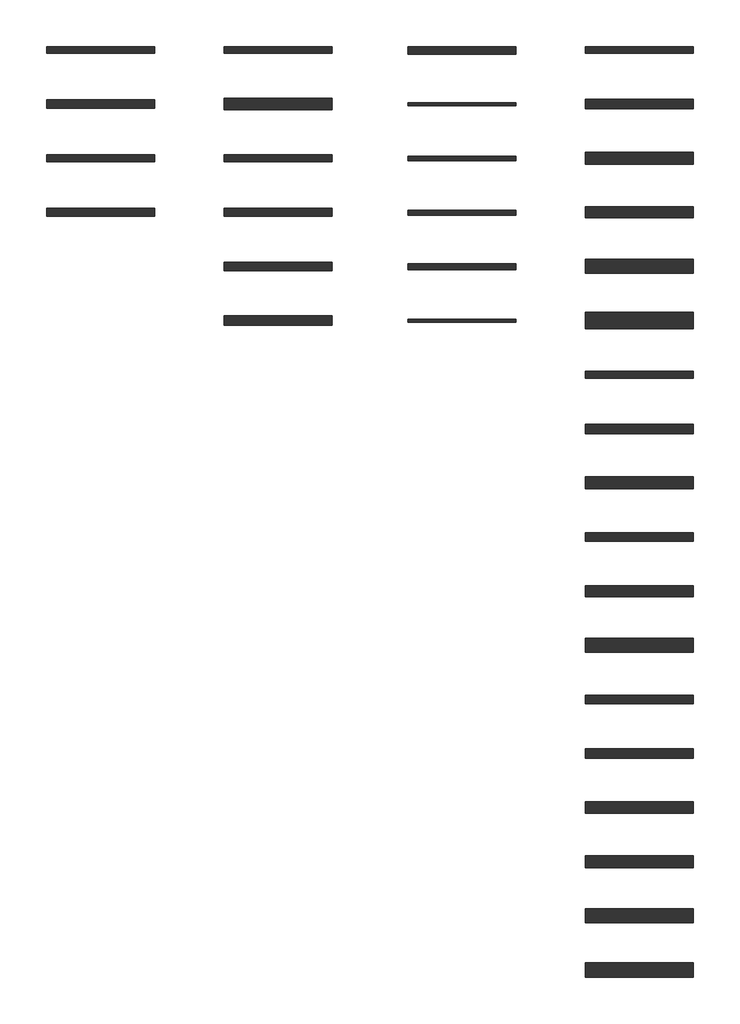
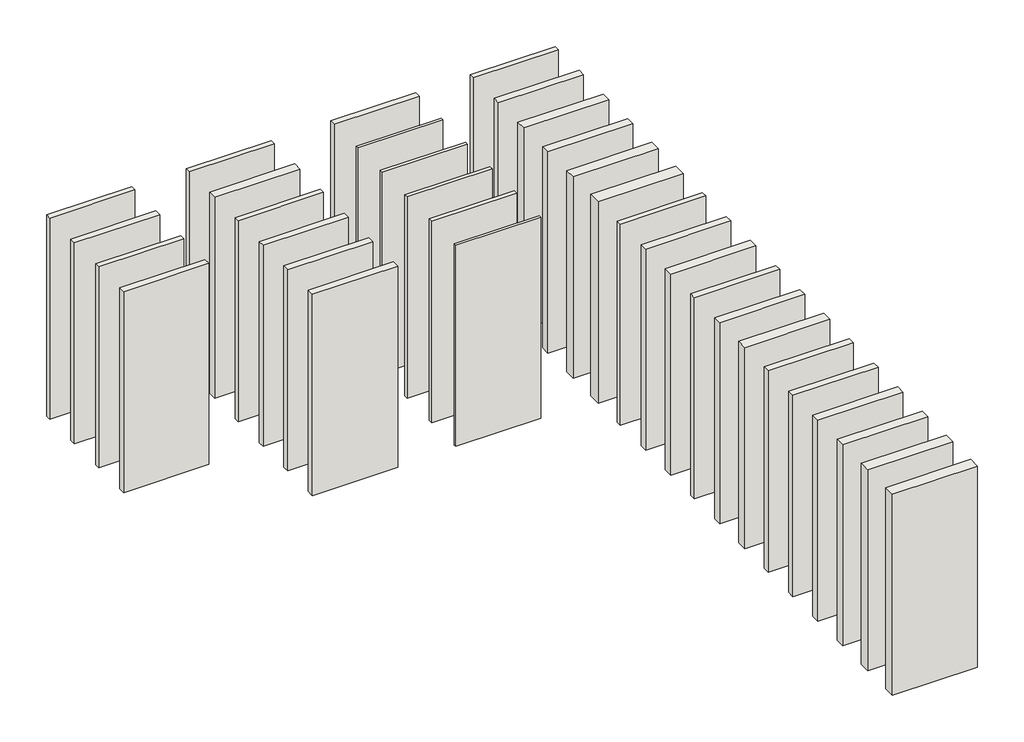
# One storey: 34 walls.
"""IFC4 building model written with IfcOpenShell, lengths in millimetres."""

from ifc_helpers import new_model, si_unit, origin, origin_with_axes, place, context, project, spatial, polyline, outline, extrude, element, save

model = new_model("IFC4")

# Units and contexts
model_context = context("Model", 3, world=origin())
ifc_project = project(units=[si_unit("LENGTHUNIT", "METRE", prefix="MILLI")], contexts=[model_context])

# Site, building, storey
site = spatial("IfcSite", under=ifc_project)
building = spatial("IfcBuilding", under=site)
storey = spatial("IfcBuildingStorey", under=building, Name="1_Apšūtas sienas", Elevation=0.0)

# Walls
placement = place(None, origin())
element("IfcWall", 1, ObjectType="RIGIPS - 3.21.10 AKU (62.5)", at=placement, inside=storey, context=model_context, shape_type="SweptSolid", body=[
    extrude(outline(polyline([(-7369.961201, 6201.4587126), (-8369.961201, 6201.4587126), (-8369.961201, 6263.9587126), (-7369.961201, 6263.9587126), (-7369.961201, 6201.4587126)])), origin_with_axes(), (0.0, 0.0, 1.0), 2500.0),
])
element("IfcWall", 2, ObjectType="RIGIPS - 3.21.10 AKU (75)", at=placement, inside=storey, context=model_context, shape_type="SweptSolid", body=[
    extrude(outline(polyline([(-7369.961201, 5695.2087126), (-8369.961201, 5695.2087126), (-8369.961201, 5770.2087126), (-7369.961201, 5770.2087126), (-7369.961201, 5695.2087126)])), origin_with_axes(), (0.0, 0.0, 1.0), 2500.0),
])
element("IfcWall", 3, ObjectType="RIGIPS - 3.21.10 AKU - EI 15, REI 15", at=placement, inside=storey, context=model_context, shape_type="SweptSolid", body=[
    extrude(outline(polyline([(-7369.961201, 5201.4587126), (-8369.961201, 5201.4587126), (-8369.961201, 5263.9587126), (-7369.961201, 5263.9587126), (-7369.961201, 5201.4587126)])), origin_with_axes(), (0.0, 0.0, 1.0), 2500.0),
])
element("IfcWall", 4, ObjectType="RIGIPS - 3.21.10 AKU - EI 30, REI 30", at=placement, inside=storey, context=model_context, shape_type="SweptSolid", body=[
    extrude(outline(polyline([(-7369.961201, 4695.2087126), (-8369.961201, 4695.2087126), (-8369.961201, 4770.2087126), (-7369.961201, 4770.2087126), (-7369.961201, 4695.2087126)])), origin_with_axes(), (0.0, 0.0, 1.0), 2500.0),
])
element("IfcWall", 5, ObjectType="RIGIPS - 3.21.10_3.21.15 - 12dB", at=placement, inside=storey, context=model_context, shape_type="SweptSolid", body=[
    extrude(outline(polyline([(-5729.961201, 6201.4587126), (-6729.961201, 6201.4587126), (-6729.961201, 6263.9587126), (-5729.961201, 6263.9587126), (-5729.961201, 6201.4587126)])), origin_with_axes(), (0.0, 0.0, 1.0), 2500.0),
])
element("IfcWall", 6, ObjectType="RIGIPS - 3.21.10_3.21.15 - EI 120, REI120 - 12dB", at=placement, inside=storey, context=model_context, shape_type="SweptSolid", body=[
    extrude(outline(polyline([(-5729.961201, 5680.2087126), (-6729.961201, 5680.2087126), (-6729.961201, 5785.2087126), (-5729.961201, 5785.2087126), (-5729.961201, 5680.2087126)])), origin_with_axes(), (0.0, 0.0, 1.0), 2500.0),
])
element("IfcWall", 7, ObjectType="RIGIPS - 3.21.10_3.21.15 - EI 15, REI 15 - 12dB", at=placement, inside=storey, context=model_context, shape_type="SweptSolid", body=[
    extrude(outline(polyline([(-5729.961201, 5201.4587126), (-6729.961201, 5201.4587126), (-6729.961201, 5263.9587126), (-5729.961201, 5263.9587126), (-5729.961201, 5201.4587126)])), origin_with_axes(), (0.0, 0.0, 1.0), 2500.0),
])
element("IfcWall", 8, ObjectType="RIGIPS - 3.21.10_3.21.15 - EI 30, REI 30 - 12dB", at=placement, inside=storey, context=model_context, shape_type="SweptSolid", body=[
    extrude(outline(polyline([(-5729.961201, 4695.2087126), (-6729.961201, 4695.2087126), (-6729.961201, 4770.2087126), (-5729.961201, 4770.2087126), (-5729.961201, 4695.2087126)])), origin_with_axes(), (0.0, 0.0, 1.0), 2500.0),
])
element("IfcWall", 9, ObjectType="RIGIPS - 3.21.10_3.21.15 - EI 60, REI 60 (80) - 12dB", at=placement, inside=storey, context=model_context, shape_type="SweptSolid", body=[
    extrude(outline(polyline([(-5729.961201, 4192.7087126), (-6729.961201, 4192.7087126), (-6729.961201, 4272.7087126), (-5729.961201, 4272.7087126), (-5729.961201, 4192.7087126)])), origin_with_axes(), (0.0, 0.0, 1.0), 2500.0),
])
element("IfcWall", 10, ObjectType="RIGIPS - 3.21.10_3.21.15 - EI 60, REI 60 (87.5) - 12dB", at=placement, inside=storey, context=model_context, shape_type="SweptSolid", body=[
    extrude(outline(polyline([(-5729.961201, 3688.9587126), (-6729.961201, 3688.9587126), (-6729.961201, 3776.4587126), (-5729.961201, 3776.4587126), (-5729.961201, 3688.9587126)])), origin_with_axes(), (0.0, 0.0, 1.0), 2500.0),
])
element("IfcWall", 11, ObjectType="RIGIPS - 3.21.30 - EI 120, REI 120", at=placement, inside=storey, context=model_context, shape_type="SweptSolid", body=[
    extrude(outline(polyline([(-4029.961201, 6193.9587126), (-5029.961201, 6193.9587126), (-5029.961201, 6263.9587126), (-4029.961201, 6263.9587126), (-4029.961201, 6193.9587126)])), origin_with_axes(), (0.0, 0.0, 1.0), 2500.0),
])
element("IfcWall", 12, ObjectType="RIGIPS - 3.21.30 - EI 15, REI 15", at=placement, inside=storey, context=model_context, shape_type="SweptSolid", body=[
    extrude(outline(polyline([(-4029.961201, 5714.9587126), (-5029.961201, 5714.9587126), (-5029.961201, 5742.9587126), (-4029.961201, 5742.9587126), (-4029.961201, 5714.9587126)])), origin_with_axes(), (0.0, 0.0, 1.0), 2500.0),
])
element("IfcWall", 13, ObjectType="RIGIPS - 3.21.30 - EI 30, REI 30", at=placement, inside=storey, context=model_context, shape_type="SweptSolid", body=[
    extrude(outline(polyline([(-4029.961201, 5208.9587126), (-5029.961201, 5208.9587126), (-5029.961201, 5248.9587126), (-4029.961201, 5248.9587126), (-4029.961201, 5208.9587126)])), origin_with_axes(), (0.0, 0.0, 1.0), 2500.0),
])
element("IfcWall", 14, ObjectType="RIGIPS - 3.21.30 - EI 60, REI 60 (46)", at=placement, inside=storey, context=model_context, shape_type="SweptSolid", body=[
    extrude(outline(polyline([(-4029.961201, 4706.4587126), (-5029.961201, 4706.4587126), (-5029.961201, 4751.4587126), (-4029.961201, 4751.4587126), (-4029.961201, 4706.4587126)])), origin_with_axes(), (0.0, 0.0, 1.0), 2500.0),
])
element("IfcWall", 15, ObjectType="RIGIPS - 3.21.30 - EI 60, REI 60 (53)", at=placement, inside=storey, context=model_context, shape_type="SweptSolid", body=[
    extrude(outline(polyline([(-4029.961201, 4202.7087126), (-5029.961201, 4202.7087126), (-5029.961201, 4255.2087126), (-4029.961201, 4255.2087126), (-4029.961201, 4202.7087126)])), origin_with_axes(), (0.0, 0.0, 1.0), 2500.0),
])
element("IfcWall", 16, ObjectType="RIGIPS - 3.21.30", at=placement, inside=storey, context=model_context, shape_type="SweptSolid", body=[
    extrude(outline(polyline([(-4029.961201, 3715.2087126), (-5029.961201, 3715.2087126), (-5029.961201, 3742.7087126), (-4029.961201, 3742.7087126), (-4029.961201, 3715.2087126)])), origin_with_axes(), (0.0, 0.0, 1.0), 2500.0),
])
element("IfcWall", 17, ObjectType="RIGIPS - 3.22.00 - 3000 - 12dB", at=placement, inside=storey, context=model_context, shape_type="SweptSolid", body=[
    extrude(outline(polyline([(-2389.961201, 6201.4587126), (-3389.961201, 6201.4587126), (-3389.961201, 6263.9587126), (-2389.961201, 6263.9587126), (-2389.961201, 6201.4587126)])), origin_with_axes(), (0.0, 0.0, 1.0), 2500.0),
])
element("IfcWall", 18, ObjectType="RIGIPS - 3.22.00 - 3500 - 12dB", at=placement, inside=storey, context=model_context, shape_type="SweptSolid", body=[
    extrude(outline(polyline([(-2389.961201, 5688.9587126), (-3389.961201, 5688.9587126), (-3389.961201, 5776.4587126), (-2389.961201, 5776.4587126), (-2389.961201, 5688.9587126)])), origin_with_axes(), (0.0, 0.0, 1.0), 2500.0),
])
element("IfcWall", 19, ObjectType="RIGIPS - 3.22.00 - 4000 - 12dB", at=placement, inside=storey, context=model_context, shape_type="SweptSolid", body=[
    extrude(outline(polyline([(-2389.961201, 5176.4587126), (-3389.961201, 5176.4587126), (-3389.961201, 5288.9587126), (-2389.961201, 5288.9587126), (-2389.961201, 5176.4587126)])), origin_with_axes(), (0.0, 0.0, 1.0), 2500.0),
])
element("IfcWall", 20, ObjectType="RIGIPS - 3.22.00 - EI 120, REI 120 - 4000 - 12dB", at=placement, inside=storey, context=model_context, shape_type="SweptSolid", body=[
    extrude(outline(polyline([(-2389.961201, 4680.2087126), (-3389.961201, 4680.2087126), (-3389.961201, 4785.2087126), (-2389.961201, 4785.2087126), (-2389.961201, 4680.2087126)])), origin_with_axes(), (0.0, 0.0, 1.0), 2500.0),
])
element("IfcWall", 21, ObjectType="RIGIPS - 3.22.00 - EI 120, REI 120 - 4500 - 12dB", at=placement, inside=storey, context=model_context, shape_type="SweptSolid", body=[
    extrude(outline(polyline([(-2389.961201, 4167.7087126), (-3389.961201, 4167.7087126), (-3389.961201, 4297.7087126), (-2389.961201, 4297.7087126), (-2389.961201, 4167.7087126)])), origin_with_axes(), (0.0, 0.0, 1.0), 2500.0),
])
element("IfcWall", 22, ObjectType="RIGIPS - 3.22.00 - EI 120, REI 120 - 5500 - 12dB", at=placement, inside=storey, context=model_context, shape_type="SweptSolid", body=[
    extrude(outline(polyline([(-2389.961201, 3655.2087126), (-3389.961201, 3655.2087126), (-3389.961201, 3810.2087126), (-2389.961201, 3810.2087126), (-2389.961201, 3655.2087126)])), origin_with_axes(), (0.0, 0.0, 1.0), 2500.0),
])
element("IfcWall", 23, ObjectType="RIGIPS - 3.22.00 - EI 15, REI 15 - 3000 - 12dB", at=placement, inside=storey, context=model_context, shape_type="SweptSolid", body=[
    extrude(outline(polyline([(-2389.961201, 3201.4587126), (-3389.961201, 3201.4587126), (-3389.961201, 3263.9587126), (-2389.961201, 3263.9587126), (-2389.961201, 3201.4587126)])), origin_with_axes(), (0.0, 0.0, 1.0), 2500.0),
])
element("IfcWall", 24, ObjectType="RIGIPS - 3.22.00 - EI 15, REI 15 - 3500 - 12dB", at=placement, inside=storey, context=model_context, shape_type="SweptSolid", body=[
    extrude(outline(polyline([(-2389.961201, 2688.9587126), (-3389.961201, 2688.9587126), (-3389.961201, 2776.4587126), (-2389.961201, 2776.4587126), (-2389.961201, 2688.9587126)])), origin_with_axes(), (0.0, 0.0, 1.0), 2500.0),
])
element("IfcWall", 25, ObjectType="RIGIPS - 3.22.00 - EI 15, REI 15 - 4000 - 12dB", at=placement, inside=storey, context=model_context, shape_type="SweptSolid", body=[
    extrude(outline(polyline([(-2389.961201, 2176.4587126), (-3389.961201, 2176.4587126), (-3389.961201, 2288.9587126), (-2389.961201, 2288.9587126), (-2389.961201, 2176.4587126)])), origin_with_axes(), (0.0, 0.0, 1.0), 2500.0),
])
element("IfcWall", 26, ObjectType="RIGIPS - 3.22.00 - EI 30, REI 30 - 3500 - 12dB", at=placement, inside=storey, context=model_context, shape_type="SweptSolid", body=[
    extrude(outline(polyline([(-2389.961201, 1695.2087126), (-3389.961201, 1695.2087126), (-3389.961201, 1770.2087126), (-2389.961201, 1770.2087126), (-2389.961201, 1695.2087126)])), origin_with_axes(), (0.0, 0.0, 1.0), 2500.0),
])
element("IfcWall", 27, ObjectType="RIGIPS - 3.22.00 - EI 30, REI 30 - 4000 - 12dB", at=placement, inside=storey, context=model_context, shape_type="SweptSolid", body=[
    extrude(outline(polyline([(-2389.961201, 1182.7087126), (-3389.961201, 1182.7087126), (-3389.961201, 1282.7087126), (-2389.961201, 1282.7087126), (-2389.961201, 1182.7087126)])), origin_with_axes(), (0.0, 0.0, 1.0), 2500.0),
])
element("IfcWall", 28, ObjectType="RIGIPS - 3.22.00 - EI 30, REI 30 - 5500 - 12dB", at=placement, inside=storey, context=model_context, shape_type="SweptSolid", body=[
    extrude(outline(polyline([(-2389.961201, 670.2087126), (-3389.961201, 670.2087126), (-3389.961201, 795.2087126), (-2389.961201, 795.2087126), (-2389.961201, 670.2087126)])), origin_with_axes(), (0.0, 0.0, 1.0), 2500.0),
])
element("IfcWall", 29, ObjectType="RIGIPS - 3.22.00 - EI 60, REI 60 - 4000 - 12dB (80)", at=placement, inside=storey, context=model_context, shape_type="SweptSolid", body=[
    extrude(outline(polyline([(-2389.961201, 192.7087126), (-3389.961201, 192.7087126), (-3389.961201, 272.7087126), (-2389.961201, 272.7087126), (-2389.961201, 192.7087126)])), origin_with_axes(), (0.0, 0.0, 1.0), 2500.0),
])
element("IfcWall", 30, ObjectType="RIGIPS - 3.22.00 - EI 60, REI 60 - 4000 - 12dB (87.5)", at=placement, inside=storey, context=model_context, shape_type="SweptSolid", body=[
    extrude(outline(polyline([(-2389.961201, -311.0412874), (-3389.961201, -311.0412874), (-3389.961201, -223.5412874), (-2389.961201, -223.5412874), (-2389.961201, -311.0412874)])), origin_with_axes(), (0.0, 0.0, 1.0), 2500.0),
])
element("IfcWall", 31, ObjectType="RIGIPS - 3.22.00 - EI 60, REI 60 - 4500 - 12dB (105)", at=placement, inside=storey, context=model_context, shape_type="SweptSolid", body=[
    extrude(outline(polyline([(-2389.961201, -819.7912874), (-3389.961201, -819.7912874), (-3389.961201, -714.7912874), (-2389.961201, -714.7912874), (-2389.961201, -819.7912874)])), origin_with_axes(), (0.0, 0.0, 1.0), 2500.0),
])
element("IfcWall", 32, ObjectType="RIGIPS - 3.22.00 - EI 60, REI 60 - 4500 - 12dB (112.5)", at=placement, inside=storey, context=model_context, shape_type="SweptSolid", body=[
    extrude(outline(polyline([(-2389.961201, -1323.5412874), (-3389.961201, -1323.5412874), (-3389.961201, -1211.0412874), (-2389.961201, -1211.0412874), (-2389.961201, -1323.5412874)])), origin_with_axes(), (0.0, 0.0, 1.0), 2500.0),
])
element("IfcWall", 33, ObjectType="RIGIPS - 3.22.00 - EI 60, REI 60 - 5500 - 12dB (130)", at=placement, inside=storey, context=model_context, shape_type="SweptSolid", body=[
    extrude(outline(polyline([(-2389.961201, -1832.2912874), (-3389.961201, -1832.2912874), (-3389.961201, -1702.2912874), (-2389.961201, -1702.2912874), (-2389.961201, -1832.2912874)])), origin_with_axes(), (0.0, 0.0, 1.0), 2500.0),
])
element("IfcWall", 34, ObjectType="RIGIPS - 3.22.00 - EI 60, REI 60 - 5500 - 12dB (137.5)", at=placement, inside=storey, context=model_context, shape_type="SweptSolid", body=[
    extrude(outline(polyline([(-2389.961201, -2336.0412874), (-3389.961201, -2336.0412874), (-3389.961201, -2198.5412874), (-2389.961201, -2198.5412874), (-2389.961201, -2336.0412874)])), origin_with_axes(), (0.0, 0.0, 1.0), 2500.0),
])

save(model, "model.ifc")
